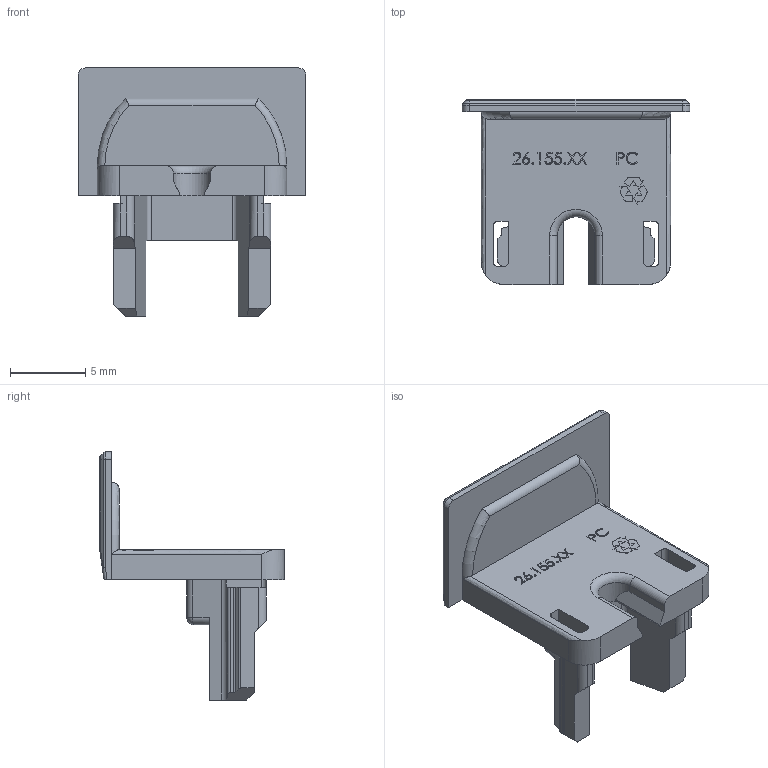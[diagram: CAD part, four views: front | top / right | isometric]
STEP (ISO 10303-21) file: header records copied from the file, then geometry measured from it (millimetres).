
FILE_DESCRIPTION (( 'STEP AP203' ), '1' );
FILE_NAME ('Endkappen_ChannelLine_U2_24.STEP', '2024-11-29T09:30:19', ( '' ), ( '' ), 'SwSTEP 2.0', 'SolidWorks 2023', '' );
FILE_SCHEMA (( 'CONFIG_CONTROL_DESIGN' ));
Length unit declared in the file: millimetre
Products named in the file (1): Endkappen_ChannelLine_U2_24
Bounding box: 15.15 x 12.3 x 16.5 mm (x, y, z)
Volume: 397.8 mm3; surface area: 877 mm2
Topology: 1 solids, 1 shells, 338 faces, 911 edges, 580 vertices
Faces by surface type: plane 185, cylinder 69, bspline 60, torus 8, sphere 8, cone 8
Entity records: 15190 total; most frequent: CARTESIAN_POINT 7144, ORIENTED_EDGE 1802, DIRECTION 1413, EDGE_CURVE 901, VECTOR 615, LINE 615, VERTEX_POINT 580, AXIS2_PLACEMENT_3D 399
